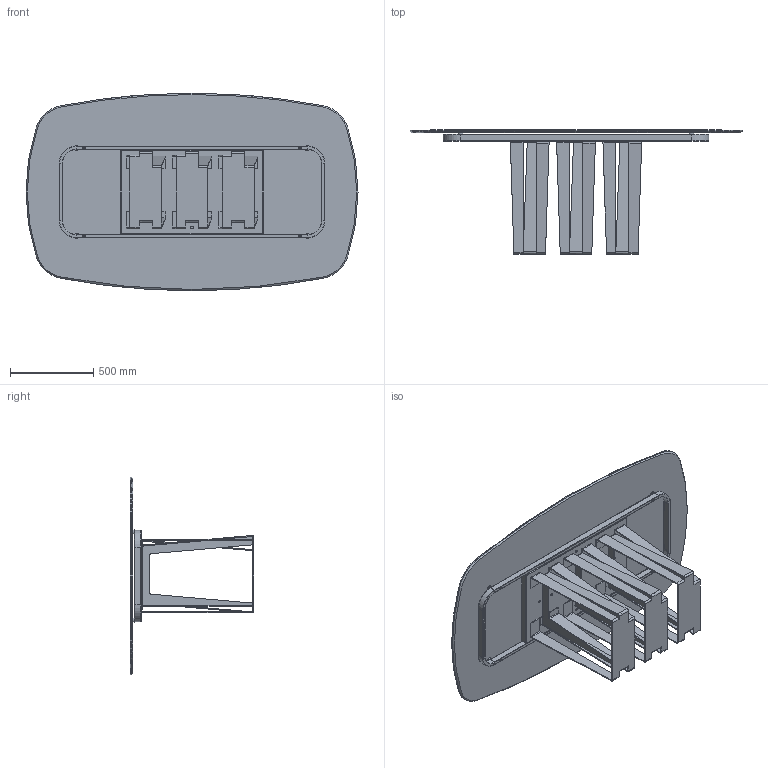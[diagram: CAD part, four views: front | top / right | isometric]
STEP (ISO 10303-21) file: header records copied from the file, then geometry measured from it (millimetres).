
FILE_DESCRIPTION (( 'STEP AP203' ), '1' );
FILE_NAME ('NA40C.STEP', '2024-08-07T14:42:35', ( '' ), ( '' ), 'SwSTEP 2.0', 'SolidWorks 2022', '' );
FILE_SCHEMA (( 'CONFIG_CONTROL_DESIGN' ));
Length unit declared in the file: millimetre
Products named in the file (8): M8xXXmm_M8x20mm; TTAV01_02-01-VASSOIO IRRIGIDIMENTO TELAIO UNIVERSALE; NAB000000-00-NARCISO BASE SING. GREZZA; TTAV01_01-01-TELAIO UNIVERSALE X TAVOLI 180 240cm_Default<A macchina>; NA40C; K4XCMXX-00-Piani Sagomati in ceramica_2000 x 1190; TTAV01-01-TELAIO UNIVERSALE X TAVOLI 180 240cm; 434070-00-PIEDINO TPV GOMMA NERO D. 30x8max18
Assembly tree (17 placements, depth 3):
  NA40C
    K4XCMXX-00-Piani Sagomati in ceramica_2000 x 1190
    434070-00-PIEDINO TPV GOMMA NERO D. 30x8max18  x4
    TTAV01-01-TELAIO UNIVERSALE X TAVOLI 180 240cm
      TTAV01_01-01-TELAIO UNIVERSALE X TAVOLI 180 240cm_Default<A macchina>
      TTAV01_02-01-VASSOIO IRRIGIDIMENTO TELAIO UNIVERSALE
    NAB000000-00-NARCISO BASE SING. GREZZA  x3
    M8xXXmm_M8x20mm  x6
Bounding box: 2000 x 746 x 1190 mm (x, y, z)
Volume: 45809568.1 mm3; surface area: 13569894.8 mm2
Topology: 31 solids, 31 shells, 1012 faces, 2476 edges, 1520 vertices
Faces by surface type: plane 539, cylinder 284, cone 81, torus 72, bspline 36
Entity records: 18027 total; most frequent: CARTESIAN_POINT 3257, DIRECTION 2933, ORIENTED_EDGE 2792, EDGE_CURVE 1396, AXIS2_PLACEMENT_3D 1040, VERTEX_POINT 888, LINE 853, VECTOR 853
